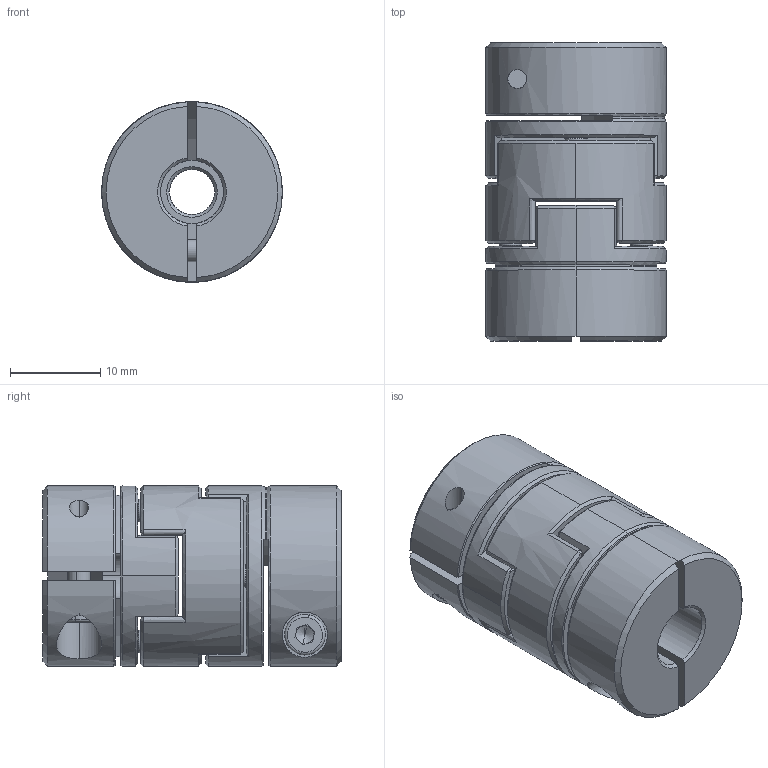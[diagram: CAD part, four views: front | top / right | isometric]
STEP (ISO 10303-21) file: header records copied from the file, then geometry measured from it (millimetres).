
FILE_DESCRIPTION (( 'STEP AP203' ), '1' );
FILE_NAME ('LZ-B-D20L33-5-7.STEP', '2021-10-29T05:36:28', ( '' ), ( '' ), 'SwSTEP 2.0', 'SolidWorks 2018', '' );
FILE_SCHEMA (( 'CONFIG_CONTROL_DESIGN' ));
Length unit declared in the file: millimetre
Products named in the file (1): LZ-B-D20L33-5-7
Bounding box: 20 x 33 x 20 mm (x, y, z)
Volume: 8544.5 mm3; surface area: 6107.4 mm2
Topology: 3 solids, 3 shells, 248 faces, 632 edges, 400 vertices
Faces by surface type: plane 112, cylinder 64, cone 42, bspline 26, torus 4
Entity records: 10263 total; most frequent: CARTESIAN_POINT 4455, ORIENTED_EDGE 1256, DIRECTION 1116, EDGE_CURVE 628, AXIS2_PLACEMENT_3D 431, VERTEX_POINT 400, EDGE_LOOP 276, VECTOR 254
